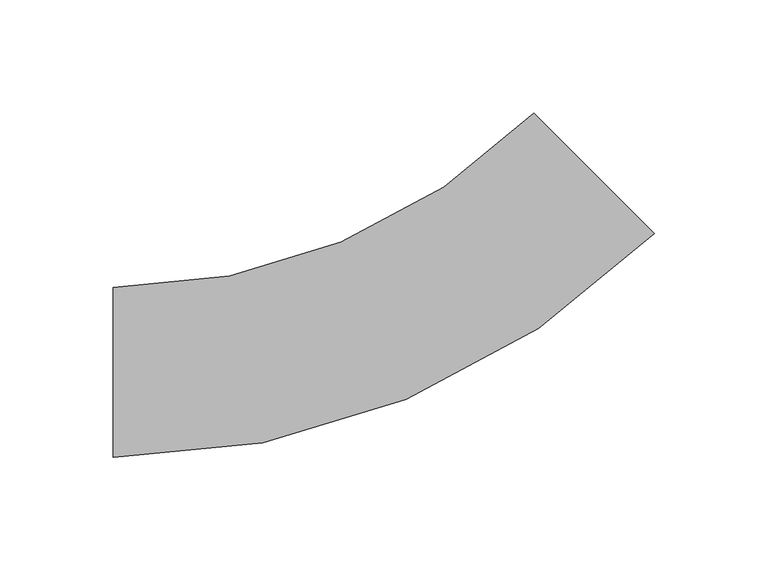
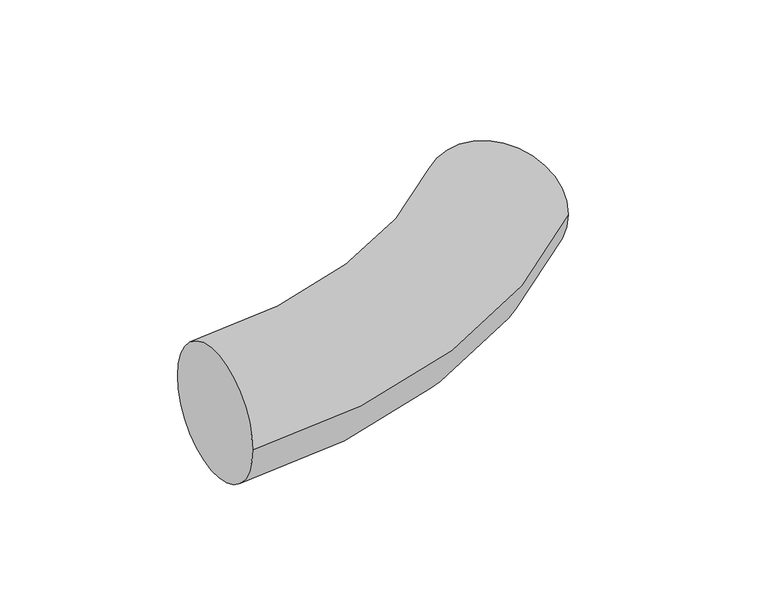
"""IFC4 building model written with IfcOpenShell, lengths in millimetres: duct segment geometry, NLRS_57_DUF_UN_Hybalans flexbend round_M&G : supply ø75 ø92 (blue)."""

from ifc_helpers import new_model, si_unit, point, frame, origin, place, context, project, spatial, circle_curve, ellipse_curve, trimmed, source, transform, mapped, element, save
from ifc_brep_helpers import plane_surface, revolved_surface, advanced_brep


def duct_segment_5930516e(model_context):
    return source(origin(), model_context, "Body", "AdvancedBrep", [
        advanced_brep(
        [(-124.2640687, -37.5, 0.0), (-124.2640687, 37.5, 0.0), (114.3844699, 61.3514613, 0.0), (61.3514613, 114.3844699, 0.0)],
        [
            (0, 1, circle_curve(frame((-124.2640687, 0.0, 0.0), z_axis=(-1.0, 0.0, 0.0), x_axis=(0.0, 1.0, 0.0)), 37.5)),
            (1, 0, circle_curve(frame((-124.2640687, 0.0, 0.0), z_axis=(-1.0, 0.0, 0.0), x_axis=(0.0, 1.0, 0.0)), 37.5)),
            (2, 3, circle_curve(frame((87.8679656, 87.8679656, 0.0), z_axis=(0.7071067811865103, 0.7071067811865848, 0.0), x_axis=(-0.7071067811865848, 0.7071067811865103, 0.0)), 37.5)),
            (3, 2, circle_curve(frame((87.8679656, 87.8679656, 0.0), z_axis=(0.7071067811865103, 0.7071067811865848, 0.0), x_axis=(-0.7071067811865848, 0.7071067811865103, 0.0)), 37.5)),
            (3, 1, circle_curve(frame((-124.2640687, 300.0, 0.0), z_axis=(0.0, 0.0, -1.0), x_axis=(0.0, -1.0, 0.0)), 262.5)),
            (0, 2, circle_curve(frame((-124.2640687, 300.0, 0.0), z_axis=(0.0, 0.0, 1.0), x_axis=(0.0, -1.0, 0.0)), 337.5)),
        ],
        [
            plane_surface(frame((-124.2640687, 0.0, 0.0), z_axis=(-1.0, 0.0, 0.0), x_axis=(0.0, 0.0, 1.0))),
            plane_surface(frame((87.8679656, 87.8679656, 0.0), z_axis=(0.7071067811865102, 0.7071067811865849, 0.0), x_axis=(0.0, 0.0, 1.0))),
            revolved_surface(trimmed(ellipse_curve(frame((-124.2640687, 0.0, 0.0), z_axis=(-1.0, 0.0, 0.0), x_axis=(0.0, 1.0, 0.0)), 37.5, 37.5), [point((-124.2640687, -37.5, 0.0))], [point((-124.2640687, 37.5, 0.0))], True, "CARTESIAN"), (-124.2640687, 300.0, 0.0), (0.0, 0.0, 1.0)),
            revolved_surface(trimmed(ellipse_curve(frame((-124.2640687, 0.0, 0.0), z_axis=(-1.0, 0.0, 0.0), x_axis=(0.0, 1.0, 0.0)), 37.5, 37.5), [point((-124.2640687, 37.5, 0.0))], [point((-124.2640687, -37.5, 0.0))], True, "CARTESIAN"), (-124.2640687, 300.0, 0.0), (0.0, 0.0, 1.0)),
        ],
        [
            (0, [[1, 2]]),
            (1, [[3, 4]]),
            (2, [[5, -1, 6, -4]]),
            (3, [[-6, -2, -5, -3]]),
        ],
    ),
    ])


if __name__ == "__main__":
    model = new_model("IFC4")
    model_context = context("Model", 3, world=origin())
    ifc_project = project(units=[si_unit("LENGTHUNIT", "METRE", prefix="MILLI")], contexts=[model_context])
    site = spatial("IfcSite", under=ifc_project)
    building = spatial("IfcBuilding", under=site)
    placement = place(None, origin())
    duct_segment_shape = duct_segment_5930516e(model_context)
    element("IfcDuctSegment", 1, ObjectType="NLRS_57_DUF_UN_Hybalans flexbend round_M&G : supply ø75 ø92 (blue)", at=placement, inside=building, context=model_context, shape_type="MappedRepresentation", body=[
        mapped(duct_segment_shape, transform((0.0, 0.0, 0.0), x_axis=(1.0, 0.0, 0.0), y_axis=(0.0, 1.0, 0.0), z_axis=(0.0, 0.0, 1.0))),
    ])
    save(model, "model.ifc")
